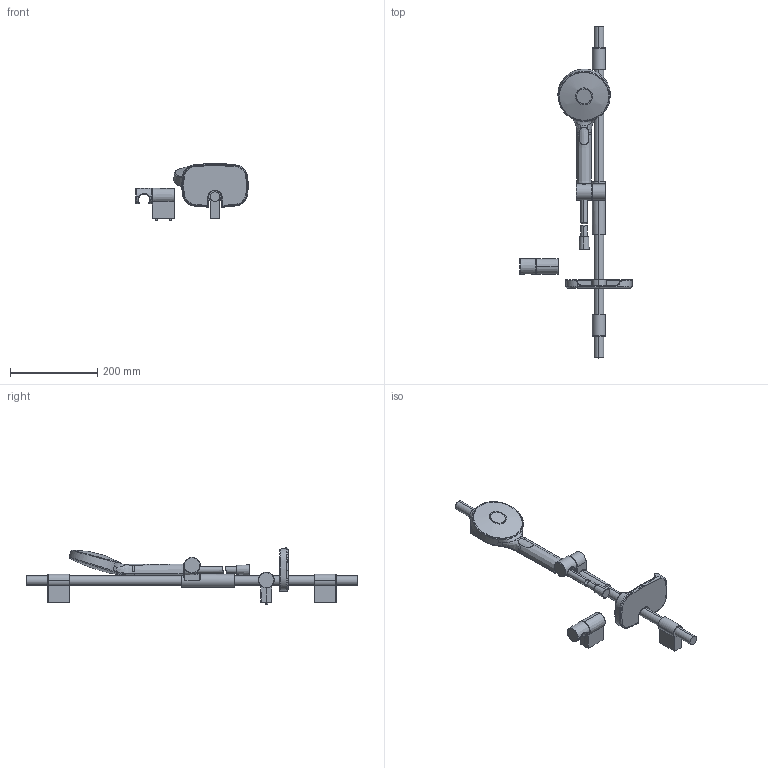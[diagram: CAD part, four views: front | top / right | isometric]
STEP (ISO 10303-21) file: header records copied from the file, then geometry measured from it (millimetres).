
FILE_DESCRIPTION (( 'STEP AP203' ), '1' );
FILE_NAME ('423(2017).STEP', '2018-10-08T08:49:02', ( '' ), ( '' ), 'SwSTEP 2.0', 'SolidWorks 2016', '' );
FILE_SCHEMA (( 'CONFIG_CONTROL_DESIGN' ));
Length unit declared in the file: millimetre
Products named in the file (1): 423(2017)
Bounding box: 257.38 x 760 x 130.43 mm (x, y, z)
Volume: 1211106.1 mm3; surface area: 211099.8 mm2
Topology: 9 solids, 9 shells, 257 faces, 593 edges, 355 vertices
Faces by surface type: bspline 87, cylinder 63, torus 44, plane 41, cone 14, sphere 8
Entity records: 23868 total; most frequent: CARTESIAN_POINT 18649, ORIENTED_EDGE 1166, DIRECTION 928, EDGE_CURVE 583, AXIS2_PLACEMENT_3D 403, VERTEX_POINT 355, EDGE_LOOP 268, FACE_OUTER_BOUND 257
